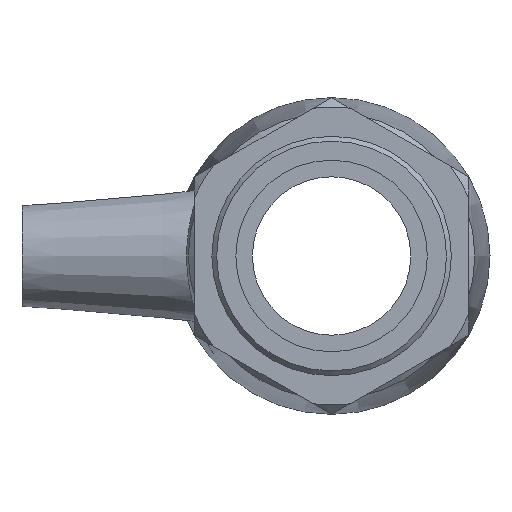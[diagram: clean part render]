
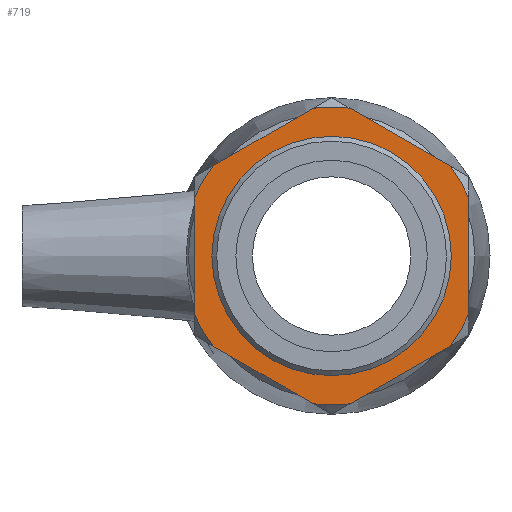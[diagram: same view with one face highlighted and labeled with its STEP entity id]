
A CAD part, left-side view. The second image highlights one B-rep face of the part: STEP entity #719.
In plain terms, the highlighted planar face has unit normal (-1, 0, 0).
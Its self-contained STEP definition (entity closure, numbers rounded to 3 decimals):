
#38=FACE_BOUND('',#220,.T.);
#65=CIRCLE('',#759,20.68);
#66=CIRCLE('',#761,20.68);
#67=CIRCLE('',#763,20.68);
#68=CIRCLE('',#765,20.68);
#69=CIRCLE('',#767,20.68);
#70=CIRCLE('',#769,20.68);
#86=CIRCLE('',#799,16.625);
#156=FACE_OUTER_BOUND('',#219,.T.);
#219=EDGE_LOOP('',(#606,#607,#608,#609,#610,#611,#612,#613,#614,#615,#616,
#617));
#220=EDGE_LOOP('',(#618));
#275=LINE('',#1077,#293);
#279=LINE('',#1101,#297);
#285=LINE('',#1141,#303);
#286=LINE('',#1148,#304);
#289=LINE('',#1170,#307);
#292=LINE('',#1201,#310);
#293=VECTOR('',#855,16.083);
#297=VECTOR('',#861,16.083);
#303=VECTOR('',#869,16.083);
#304=VECTOR('',#872,16.083);
#307=VECTOR('',#877,16.083);
#310=VECTOR('',#882,16.083);
#335=VERTEX_POINT('',#1071);
#337=VERTEX_POINT('',#1076);
#343=VERTEX_POINT('',#1096);
#344=VERTEX_POINT('',#1100);
#350=VERTEX_POINT('',#1119);
#356=VERTEX_POINT('',#1137);
#357=VERTEX_POINT('',#1143);
#358=VERTEX_POINT('',#1147);
#363=VERTEX_POINT('',#1165);
#364=VERTEX_POINT('',#1169);
#367=VERTEX_POINT('',#1184);
#370=VERTEX_POINT('',#1197);
#382=VERTEX_POINT('',#1322);
#407=EDGE_CURVE('',#337,#335,#275,.T.);
#415=EDGE_CURVE('',#344,#343,#279,.T.);
#428=EDGE_CURVE('',#350,#356,#285,.T.);
#430=EDGE_CURVE('',#358,#357,#286,.T.);
#437=EDGE_CURVE('',#364,#363,#289,.T.);
#447=EDGE_CURVE('',#367,#370,#292,.T.);
#448=EDGE_CURVE('',#358,#363,#65,.T.);
#449=EDGE_CURVE('',#364,#356,#66,.T.);
#450=EDGE_CURVE('',#350,#370,#67,.T.);
#451=EDGE_CURVE('',#344,#357,#68,.T.);
#452=EDGE_CURVE('',#337,#343,#69,.T.);
#453=EDGE_CURVE('',#367,#335,#70,.T.);
#471=EDGE_CURVE('',#382,#382,#86,.T.);
#606=ORIENTED_EDGE('',*,*,#407,.T.);
#607=ORIENTED_EDGE('',*,*,#453,.F.);
#608=ORIENTED_EDGE('',*,*,#447,.T.);
#609=ORIENTED_EDGE('',*,*,#450,.F.);
#610=ORIENTED_EDGE('',*,*,#428,.T.);
#611=ORIENTED_EDGE('',*,*,#449,.F.);
#612=ORIENTED_EDGE('',*,*,#437,.T.);
#613=ORIENTED_EDGE('',*,*,#448,.F.);
#614=ORIENTED_EDGE('',*,*,#430,.T.);
#615=ORIENTED_EDGE('',*,*,#451,.F.);
#616=ORIENTED_EDGE('',*,*,#415,.T.);
#617=ORIENTED_EDGE('',*,*,#452,.F.);
#618=ORIENTED_EDGE('',*,*,#471,.T.);
#682=PLANE('',#798);
#719=ADVANCED_FACE('',(#156,#38),#682,.T.);
#759=AXIS2_PLACEMENT_3D('',#1203,#885,#886);
#761=AXIS2_PLACEMENT_3D('',#1205,#889,#890);
#763=AXIS2_PLACEMENT_3D('',#1207,#893,#894);
#765=AXIS2_PLACEMENT_3D('',#1209,#897,#898);
#767=AXIS2_PLACEMENT_3D('',#1211,#901,#902);
#769=AXIS2_PLACEMENT_3D('',#1213,#905,#906);
#798=AXIS2_PLACEMENT_3D('',#1321,#963,#964);
#799=AXIS2_PLACEMENT_3D('',#1323,#965,#966);
#855=DIRECTION('',(0.,0.866,0.5));
#861=DIRECTION('',(0.,0.,1.));
#869=DIRECTION('',(0.,0.,-1.));
#872=DIRECTION('',(0.,-0.866,0.5));
#877=DIRECTION('',(0.,-0.866,-0.5));
#882=DIRECTION('',(0.,0.866,-0.5));
#885=DIRECTION('center_axis',(1.,0.,0.));
#886=DIRECTION('ref_axis',(0.,-1.,0.));
#889=DIRECTION('center_axis',(1.,0.,0.));
#890=DIRECTION('ref_axis',(0.,-1.,0.));
#893=DIRECTION('center_axis',(1.,0.,0.));
#894=DIRECTION('ref_axis',(0.,-1.,0.));
#897=DIRECTION('center_axis',(1.,0.,0.));
#898=DIRECTION('ref_axis',(0.,-1.,0.));
#901=DIRECTION('center_axis',(1.,0.,0.));
#902=DIRECTION('ref_axis',(0.,-1.,0.));
#905=DIRECTION('center_axis',(1.,0.,0.));
#906=DIRECTION('ref_axis',(0.,-1.,0.));
#963=DIRECTION('center_axis',(-1.,0.,0.));
#964=DIRECTION('ref_axis',(0.,0.,1.));
#965=DIRECTION('center_axis',(1.,0.,0.));
#966=DIRECTION('ref_axis',(0.,0.,-1.));
#1071=CARTESIAN_POINT('',(-57.6,-2.562,20.521));
#1076=CARTESIAN_POINT('',(-57.6,-16.49,12.479));
#1077=CARTESIAN_POINT('',(-57.6,3.487,24.013));
#1096=CARTESIAN_POINT('',(-57.6,-19.053,8.041));
#1100=CARTESIAN_POINT('',(-57.6,-19.053,-8.041));
#1101=CARTESIAN_POINT('',(-57.6,-19.053,5.5));
#1119=CARTESIAN_POINT('',(-57.6,19.053,8.041));
#1137=CARTESIAN_POINT('',(-57.6,19.053,-8.041));
#1141=CARTESIAN_POINT('',(-57.6,19.053,-5.5));
#1143=CARTESIAN_POINT('',(-57.6,-16.49,-12.479));
#1147=CARTESIAN_POINT('',(-57.6,-2.562,-20.521));
#1148=CARTESIAN_POINT('',(-57.6,-6.039,-18.513));
#1165=CARTESIAN_POINT('',(-57.6,2.562,-20.521));
#1169=CARTESIAN_POINT('',(-57.6,16.49,-12.479));
#1170=CARTESIAN_POINT('',(-57.6,13.013,-14.487));
#1184=CARTESIAN_POINT('',(-57.6,2.562,20.521));
#1197=CARTESIAN_POINT('',(-57.6,16.49,12.479));
#1201=CARTESIAN_POINT('',(-57.6,22.539,8.987));
#1203=CARTESIAN_POINT('Origin',(-57.6,0.,0.));
#1205=CARTESIAN_POINT('Origin',(-57.6,0.,0.));
#1207=CARTESIAN_POINT('Origin',(-57.6,0.,0.));
#1209=CARTESIAN_POINT('Origin',(-57.6,0.,0.));
#1211=CARTESIAN_POINT('Origin',(-57.6,0.,0.));
#1213=CARTESIAN_POINT('Origin',(-57.6,0.,0.));
#1321=CARTESIAN_POINT('Origin',(-57.6,22.,0.));
#1322=CARTESIAN_POINT('',(-57.6,16.625,0.));
#1323=CARTESIAN_POINT('Origin',(-57.6,0.,0.));
